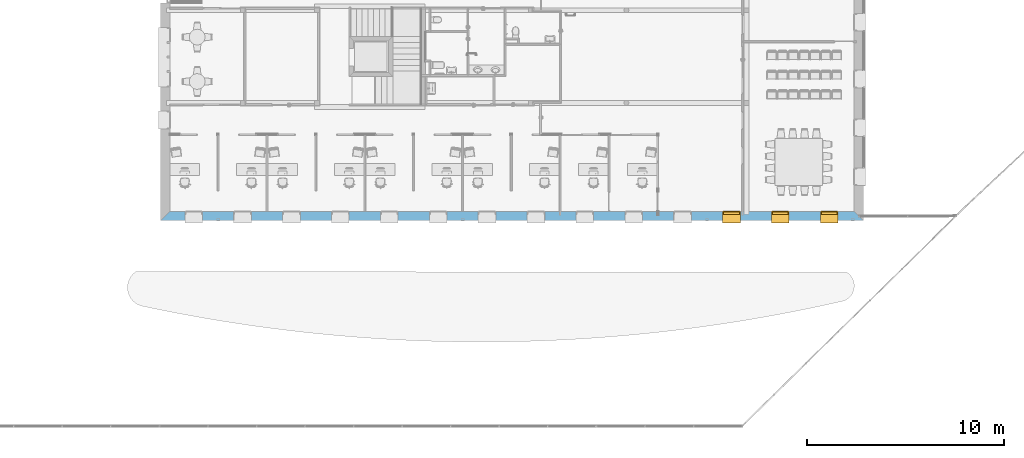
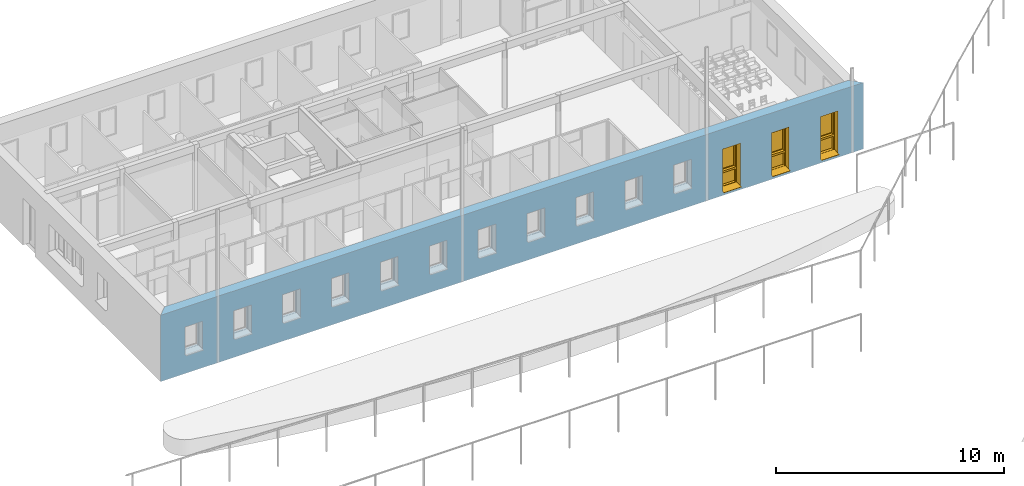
# One storey, part 17 of 91: 3 windows, 14 openings, plus 1 element that does not belong to this part.
"""IFC2X3 building model written with IfcOpenShell, lengths in metres."""

from ifc_helpers import new_model, entity, si_unit, converted_unit, derived_unit, money_unit, direction, frame, origin_with_axes, origin_2d_with_axis, place, context, subcontext, project, spatial, polyline, rectangle, outline, extrude, open_shell, faceted_brep, surface_model, source, transform, mapped, material, layer, layer_set, layer_usage, type_object, element, fill, save


model = new_model("IFC2X3")

# Units and contexts
model_context = context("Model", 3, precision=1e-05, world=origin_with_axes(), true_north=direction((0.0, 1.0)))
body_context = subcontext(model_context, "Body", "Model", "MODEL_VIEW")
ifc_project = project(units=[si_unit("LENGTHUNIT", "METRE"), si_unit("AREAUNIT", "SQUARE_METRE"), si_unit("VOLUMEUNIT", "CUBIC_METRE"), converted_unit("PLANEANGLEUNIT", "DEGREE", entity("IfcPlaneAngleMeasure", 0.0174532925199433), si_unit("PLANEANGLEUNIT", "RADIAN"), dimensions=[0, 0, 0, 0, 0, 0, 0]), money_unit("EUR"), converted_unit("TIMEUNIT", "Year", entity("IfcTimeMeasure", 31557600.0), si_unit("TIMEUNIT", "SECOND"), dimensions=[0, 0, 1, 0, 0, 0, 0]), si_unit("MASSUNIT", "GRAM", prefix="KILO"), si_unit("THERMODYNAMICTEMPERATUREUNIT", "DEGREE_CELSIUS"), si_unit("LUMINOUSINTENSITYUNIT", "LUMEN"), si_unit("ENERGYUNIT", "JOULE", prefix="MEGA"), derived_unit("THERMALCONDUCTANCEUNIT", [(si_unit("POWERUNIT", "WATT"), 1), (si_unit("LENGTHUNIT", "METRE"), -1), (si_unit("THERMODYNAMICTEMPERATUREUNIT", "KELVIN"), -1)]), derived_unit("SPECIFICHEATCAPACITYUNIT", [(si_unit("ENERGYUNIT", "JOULE"), 1), (si_unit("MASSUNIT", "GRAM", prefix="KILO"), -1), (si_unit("THERMODYNAMICTEMPERATUREUNIT", "KELVIN"), -1)]), derived_unit("MASSDENSITYUNIT", [(si_unit("MASSUNIT", "GRAM", prefix="KILO"), 1), (si_unit("VOLUMEUNIT", "CUBIC_METRE"), -1)])], contexts=[model_context])

# Site, building, storey
site_placement = place(None, origin_with_axes())
site = spatial("IfcSite", under=ifc_project, at=site_placement, Name="Site", CompositionType="ELEMENT")
building_placement = place(site_placement, origin_with_axes())
building = spatial("IfcBuilding", under=site, at=building_placement, Name="Bâtiment", CompositionType="ELEMENT")
storey_placement = place(building_placement, origin_with_axes())
storey = spatial("IfcBuildingStorey", under=building, at=storey_placement, Name="RDC", CompositionType="ELEMENT", Elevation=0.0)

# Wall, openings, windows
ifc_material_1 = material(Name="*MÉTAL- BARDAGE")
ifc_layer_1 = layer(ifc_material_1, 0.04, ventilated="UNKNOWN")
ifc_material_2 = material(Name="Divers - Vide faux plafond")
ifc_layer_2 = layer(ifc_material_2, 0.05, ventilated="UNKNOWN")
ifc_material_3 = material(Name="Finition int - Enduit plâtre")
ifc_layer_3 = layer(ifc_material_3, 0.01, ventilated="UNKNOWN")
ifc_material_4 = material(Name="*GENERIQUE - MAÇONNERIE")
ifc_layer_4 = layer(ifc_material_4, 0.2, ventilated="UNKNOWN")
ifc_layer_5 = layer(ifc_material_3, 0.01, ventilated="UNKNOWN")
ifc_material_5 = material(Name="Vide pour liteaux")
ifc_layer_6 = layer(ifc_material_5, 0.01, ventilated="UNKNOWN")
ifc_material_6 = material(Name="*GENERIQUE - ISOLATION PLANCHER")
ifc_layer_7 = layer(ifc_material_6, 0.14, ventilated="UNKNOWN")
ifc_material_7 = material(Name="*PLAQUE DE PLATRE - DOUBLAGE")
ifc_layer_8 = layer(ifc_material_7, 0.018, ventilated="UNKNOWN")
ifc_layer_set = layer_set([ifc_layer_1, ifc_layer_2, ifc_layer_3, ifc_layer_4, ifc_layer_5, ifc_layer_6, ifc_layer_7, ifc_layer_8], Name="*MACONNERIE ITI BARDAGE METAL")
ifc_layer_usage = layer_usage(ifc_layer_set, "AXIS2", "POSITIVE", -0.478)
wall_type = type_object("IfcWallType", Name="*MACONNERIE ITI BARDAGE METAL 478", PredefinedType="NOTDEFINED")
wall_placement = place(storey_placement, frame((25.09999999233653, -26.95756215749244, 0.0), z_axis=(0.0, 0.0, 1.0), x_axis=(1.0, 0.0, 0.0)))
wall = element("IfcWallStandardCase", 1, at=wall_placement, inside=storey, type_object=wall_type, material=ifc_layer_usage, Name="Mur maçonné + ITI + véture métallique", context=body_context, shape_type="SweptSolid", body=[
    extrude(outline(polyline([(-0.4780000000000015, -0.4780000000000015), (35.17800000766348, -0.4780000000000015), (34.70000000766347, 0.0), (0.0, 0.0), (-0.4780000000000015, -0.4780000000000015)])), origin_with_axes(), (0.0, 0.0, 1.0), 3.56),
])
opening_1_placement = place(wall_placement, frame((1.202999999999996, 0.0, 1.0), z_axis=(0.0, 0.0, 1.0), x_axis=(1.0, 0.0, 0.0)))
element("IfcOpeningElement", 2, at=opening_1_placement, cuts=wall, Name="ME.01", context=body_context, shape_type="SweptSolid", body=[
    extrude(rectangle(XDim=0.8999999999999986, YDim=1.5, at=origin_2d_with_axis()), frame((0.0, -0.1580000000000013, 0.75), z_axis=(0.0, -1.0, 0.0), x_axis=(-1.0, 0.0, 0.0)), (0.0, 0.0, 1.0), 0.798),
    extrude(rectangle(XDim=0.8999999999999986, YDim=1.5, at=origin_2d_with_axis()), frame((0.0, -0.1580000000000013, 0.75), z_axis=(0.0, 1.0, 0.0), x_axis=(-1.0, 0.0, 0.0)), (0.0, 0.0, 1.0), 0.6360000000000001),
])
opening_2_placement = place(wall_placement, frame((6.162999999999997, 0.0, 1.0), z_axis=(0.0, 0.0, 1.0), x_axis=(1.0, 0.0, 0.0)))
element("IfcOpeningElement", 3, at=opening_2_placement, cuts=wall, Name="ME.01", context=body_context, shape_type="SweptSolid", body=[
    extrude(rectangle(XDim=0.8999999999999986, YDim=1.5, at=origin_2d_with_axis()), frame((0.0, -0.1580000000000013, 0.75), z_axis=(0.0, -1.0, 0.0), x_axis=(-1.0, 0.0, 0.0)), (0.0, 0.0, 1.0), 0.798),
    extrude(rectangle(XDim=0.8999999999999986, YDim=1.5, at=origin_2d_with_axis()), frame((0.0, -0.1580000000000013, 0.75), z_axis=(0.0, 1.0, 0.0), x_axis=(-1.0, 0.0, 0.0)), (0.0, 0.0, 1.0), 0.6360000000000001),
])
opening_3_placement = place(wall_placement, frame((8.642999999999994, 0.0, 1.0), z_axis=(0.0, 0.0, 1.0), x_axis=(1.0, 0.0, 0.0)))
element("IfcOpeningElement", 4, at=opening_3_placement, cuts=wall, Name="ME.01", context=body_context, shape_type="SweptSolid", body=[
    extrude(rectangle(XDim=0.9000000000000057, YDim=1.5, at=origin_2d_with_axis()), frame((0.0, -0.1580000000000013, 0.75), z_axis=(0.0, -1.0, 0.0), x_axis=(-1.0, 0.0, 0.0)), (0.0, 0.0, 1.0), 0.798),
    extrude(rectangle(XDim=0.9000000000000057, YDim=1.5, at=origin_2d_with_axis()), frame((0.0, -0.1580000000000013, 0.75), z_axis=(0.0, 1.0, 0.0), x_axis=(-1.0, 0.0, 0.0)), (0.0, 0.0, 1.0), 0.6360000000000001),
])
opening_4_placement = place(wall_placement, frame((11.123, 0.0, 1.0), z_axis=(0.0, 0.0, 1.0), x_axis=(1.0, 0.0, 0.0)))
element("IfcOpeningElement", 5, at=opening_4_placement, cuts=wall, Name="ME.01", context=body_context, shape_type="SweptSolid", body=[
    extrude(rectangle(XDim=0.9000000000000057, YDim=1.5, at=origin_2d_with_axis()), frame((0.0, -0.1580000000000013, 0.75), z_axis=(0.0, -1.0, 0.0), x_axis=(-1.0, 0.0, 0.0)), (0.0, 0.0, 1.0), 0.798),
    extrude(rectangle(XDim=0.9000000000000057, YDim=1.5, at=origin_2d_with_axis()), frame((0.0, -0.1580000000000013, 0.75), z_axis=(0.0, 1.0, 0.0), x_axis=(-1.0, 0.0, 0.0)), (0.0, 0.0, 1.0), 0.6360000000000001),
])
opening_5_placement = place(wall_placement, frame((13.60299999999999, 0.0, 1.0), z_axis=(0.0, 0.0, 1.0), x_axis=(1.0, 0.0, 0.0)))
element("IfcOpeningElement", 6, at=opening_5_placement, cuts=wall, Name="ME.01", context=body_context, shape_type="SweptSolid", body=[
    extrude(rectangle(XDim=0.9000000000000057, YDim=1.5, at=origin_2d_with_axis()), frame((0.0, -0.1580000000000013, 0.75), z_axis=(0.0, -1.0, 0.0), x_axis=(-1.0, 0.0, 0.0)), (0.0, 0.0, 1.0), 0.798),
    extrude(rectangle(XDim=0.9000000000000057, YDim=1.5, at=origin_2d_with_axis()), frame((0.0, -0.1580000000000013, 0.75), z_axis=(0.0, 1.0, 0.0), x_axis=(-1.0, 0.0, 0.0)), (0.0, 0.0, 1.0), 0.6360000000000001),
])
opening_6_placement = place(wall_placement, frame((16.08299999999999, 0.0, 1.0), z_axis=(0.0, 0.0, 1.0), x_axis=(1.0, 0.0, 0.0)))
element("IfcOpeningElement", 7, at=opening_6_placement, cuts=wall, Name="ME.01", context=body_context, shape_type="SweptSolid", body=[
    extrude(rectangle(XDim=0.9000000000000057, YDim=1.5, at=origin_2d_with_axis()), frame((0.0, -0.1580000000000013, 0.75), z_axis=(0.0, -1.0, 0.0), x_axis=(-1.0, 0.0, 0.0)), (0.0, 0.0, 1.0), 0.798),
    extrude(rectangle(XDim=0.9000000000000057, YDim=1.5, at=origin_2d_with_axis()), frame((0.0, -0.1580000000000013, 0.75), z_axis=(0.0, 1.0, 0.0), x_axis=(-1.0, 0.0, 0.0)), (0.0, 0.0, 1.0), 0.6360000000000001),
])
opening_7_placement = place(wall_placement, frame((18.563, 0.0, 1.0), z_axis=(0.0, 0.0, 1.0), x_axis=(1.0, 0.0, 0.0)))
element("IfcOpeningElement", 8, at=opening_7_placement, cuts=wall, Name="ME.01", context=body_context, shape_type="SweptSolid", body=[
    extrude(rectangle(XDim=0.9000000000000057, YDim=1.5, at=origin_2d_with_axis()), frame((0.0, -0.1580000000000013, 0.75), z_axis=(0.0, -1.0, 0.0), x_axis=(-1.0, 0.0, 0.0)), (0.0, 0.0, 1.0), 0.798),
    extrude(rectangle(XDim=0.9000000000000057, YDim=1.5, at=origin_2d_with_axis()), frame((0.0, -0.1580000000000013, 0.75), z_axis=(0.0, 1.0, 0.0), x_axis=(-1.0, 0.0, 0.0)), (0.0, 0.0, 1.0), 0.6360000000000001),
])
opening_8_placement = place(wall_placement, frame((21.043, 0.0, 1.0), z_axis=(0.0, 0.0, 1.0), x_axis=(1.0, 0.0, 0.0)))
element("IfcOpeningElement", 9, at=opening_8_placement, cuts=wall, Name="ME.01", context=body_context, shape_type="SweptSolid", body=[
    extrude(rectangle(XDim=0.9000000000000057, YDim=1.5, at=origin_2d_with_axis()), frame((0.0, -0.1580000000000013, 0.75), z_axis=(0.0, -1.0, 0.0), x_axis=(-1.0, 0.0, 0.0)), (0.0, 0.0, 1.0), 0.798),
    extrude(rectangle(XDim=0.9000000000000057, YDim=1.5, at=origin_2d_with_axis()), frame((0.0, -0.1580000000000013, 0.75), z_axis=(0.0, 1.0, 0.0), x_axis=(-1.0, 0.0, 0.0)), (0.0, 0.0, 1.0), 0.6360000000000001),
])
opening_9_placement = place(wall_placement, frame((3.682999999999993, 0.0, 1.0), z_axis=(0.0, 0.0, 1.0), x_axis=(1.0, 0.0, 0.0)))
element("IfcOpeningElement", 10, at=opening_9_placement, cuts=wall, Name="ME.01", context=body_context, shape_type="SweptSolid", body=[
    extrude(rectangle(XDim=0.8999999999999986, YDim=1.5, at=origin_2d_with_axis()), frame((0.0, -0.1580000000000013, 0.75), z_axis=(0.0, -1.0, 0.0), x_axis=(-1.0, 0.0, 0.0)), (0.0, 0.0, 1.0), 0.798),
    extrude(rectangle(XDim=0.8999999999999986, YDim=1.5, at=origin_2d_with_axis()), frame((0.0, -0.1580000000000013, 0.75), z_axis=(0.0, 1.0, 0.0), x_axis=(-1.0, 0.0, 0.0)), (0.0, 0.0, 1.0), 0.6360000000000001),
])
opening_10_placement = place(wall_placement, frame((23.523, 0.0, 1.0), z_axis=(0.0, 0.0, 1.0), x_axis=(1.0, 0.0, 0.0)))
element("IfcOpeningElement", 11, at=opening_10_placement, cuts=wall, Name="ME.01", context=body_context, shape_type="SweptSolid", body=[
    extrude(rectangle(XDim=0.9000000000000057, YDim=1.5, at=origin_2d_with_axis()), frame((0.0, -0.1580000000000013, 0.75), z_axis=(0.0, -1.0, 0.0), x_axis=(-1.0, 0.0, 0.0)), (0.0, 0.0, 1.0), 0.798),
    extrude(rectangle(XDim=0.9000000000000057, YDim=1.5, at=origin_2d_with_axis()), frame((0.0, -0.1580000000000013, 0.75), z_axis=(0.0, 1.0, 0.0), x_axis=(-1.0, 0.0, 0.0)), (0.0, 0.0, 1.0), 0.6360000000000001),
])
opening_11_placement = place(wall_placement, frame((26.00300000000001, 0.0, 1.0), z_axis=(0.0, 0.0, 1.0), x_axis=(1.0, 0.0, 0.0)))
element("IfcOpeningElement", 12, at=opening_11_placement, cuts=wall, Name="ME.01", context=body_context, shape_type="SweptSolid", body=[
    extrude(rectangle(XDim=0.9000000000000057, YDim=1.5, at=origin_2d_with_axis()), frame((0.0, -0.1580000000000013, 0.75), z_axis=(0.0, -1.0, 0.0), x_axis=(-1.0, 0.0, 0.0)), (0.0, 0.0, 1.0), 0.798),
    extrude(rectangle(XDim=0.9000000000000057, YDim=1.5, at=origin_2d_with_axis()), frame((0.0, -0.1580000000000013, 0.75), z_axis=(0.0, 1.0, 0.0), x_axis=(-1.0, 0.0, 0.0)), (0.0, 0.0, 1.0), 0.6360000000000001),
])
opening_12_placement = place(wall_placement, frame((28.48300000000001, 0.0, 0.2), z_axis=(0.0, 0.0, 1.0), x_axis=(1.0, 0.0, 0.0)))
opening_12 = element("IfcOpeningElement", 13, at=opening_12_placement, cuts=wall, Name="ME.02", context=body_context, shape_type="SweptSolid", body=[
    extrude(rectangle(XDim=0.9000000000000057, YDim=2.3, at=origin_2d_with_axis()), frame((0.0, -0.1580000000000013, 1.15), z_axis=(0.0, -1.0, 0.0), x_axis=(-1.0, 0.0, 0.0)), (0.0, 0.0, 1.0), 0.798),
    extrude(rectangle(XDim=0.9000000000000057, YDim=2.3, at=origin_2d_with_axis()), frame((0.0, -0.1580000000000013, 1.15), z_axis=(0.0, 1.0, 0.0), x_axis=(-1.0, 0.0, 0.0)), (0.0, 0.0, 1.0), 0.6360000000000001),
])
opening_13_placement = place(wall_placement, frame((30.96300000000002, 0.0, 0.2), z_axis=(0.0, 0.0, 1.0), x_axis=(1.0, 0.0, 0.0)))
opening_13 = element("IfcOpeningElement", 14, at=opening_13_placement, cuts=wall, Name="ME.02", context=body_context, shape_type="SweptSolid", body=[
    extrude(rectangle(XDim=0.9000000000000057, YDim=2.3, at=origin_2d_with_axis()), frame((0.0, -0.1580000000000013, 1.15), z_axis=(0.0, -1.0, 0.0), x_axis=(-1.0, 0.0, 0.0)), (0.0, 0.0, 1.0), 0.798),
    extrude(rectangle(XDim=0.9000000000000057, YDim=2.3, at=origin_2d_with_axis()), frame((0.0, -0.1580000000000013, 1.15), z_axis=(0.0, 1.0, 0.0), x_axis=(-1.0, 0.0, 0.0)), (0.0, 0.0, 1.0), 0.6360000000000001),
])
opening_14_placement = place(wall_placement, frame((33.44300000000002, 0.0, 0.2), z_axis=(0.0, 0.0, 1.0), x_axis=(1.0, 0.0, 0.0)))
opening_14 = element("IfcOpeningElement", 15, at=opening_14_placement, cuts=wall, Name="ME.02", context=body_context, shape_type="SweptSolid", body=[
    extrude(rectangle(XDim=0.9000000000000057, YDim=2.3, at=origin_2d_with_axis()), frame((0.0, -0.1580000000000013, 1.15), z_axis=(0.0, -1.0, 0.0), x_axis=(-1.0, 0.0, 0.0)), (0.0, 0.0, 1.0), 0.798),
    extrude(rectangle(XDim=0.9000000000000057, YDim=2.3, at=origin_2d_with_axis()), frame((0.0, -0.1580000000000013, 1.15), z_axis=(0.0, 1.0, 0.0), x_axis=(-1.0, 0.0, 0.0)), (0.0, 0.0, 1.0), 0.6360000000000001),
])
window_style = type_object("IfcWindowStyle", Name="Fenêtre 27", ConstructionType="NOTDEFINED", OperationType="DOUBLE_PANEL_HORIZONTAL", ParameterTakesPrecedence=False, Sizeable=False)
shared_shape = source(origin_with_axes(), body_context, "Body", "SurfaceModel", [
    surface_model("IfcShellBasedSurfaceModel", [(0.45, -0.161, 0.05), (-0.45, -0.161, 0.05000000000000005), (-0.45, -0.161, 0.04000000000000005), (0.45, -0.161, 0.03999999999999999), (-0.45, -0.5850000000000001, 0.01343749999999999), (0.45, -0.5850000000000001, 0.01343749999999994), (-0.45, -0.5850000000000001, -0.006562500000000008), (0.45, -0.5850000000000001, -0.006562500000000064), (-0.45, -0.5750000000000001, 0.003437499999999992), (0.45, -0.5750000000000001, 0.003437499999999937)], [open_shell([[[0, 1, 2, 3]], [[3, 2, 4, 5]], [[5, 4, 6, 7]], [[7, 6, 8, 9]]])]),
    faceted_brep([(0.447, -0.48, 0.02001547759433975), (0.447, -0.4799999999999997, 2.297), (0.447, -0.1599999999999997, 2.297), (0.447, -0.16, 0.05000000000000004), (0.447, -0.161, 0.05000000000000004), (0.447, -0.161, 0.04000000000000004), (0.45, -0.48, 0.02001547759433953), (0.45, -0.4799999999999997, 2.3), (0.45, -0.1599999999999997, 2.3), (0.45, -0.16, 0.05000000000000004), (0.45, -0.161, 0.05000000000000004), (0.45, -0.161, 0.04000000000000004)], [[[0, 1, 2, 3, 4, 5]], [[6, 7, 1, 0]], [[8, 2, 1, 7]], [[3, 2, 8, 9]], [[3, 9, 10, 4]], [[4, 10, 11, 5]], [[5, 11, 6, 0]], [[11, 10, 9, 8, 7, 6]]]),
    faceted_brep([(-0.45, -0.48, 0.02001547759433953), (-0.45, -0.4799999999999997, 2.3), (-0.45, -0.1599999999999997, 2.3), (-0.45, -0.16, 0.05000000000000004), (-0.45, -0.161, 0.05000000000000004), (-0.45, -0.161, 0.04000000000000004), (-0.447, -0.48, 0.02001547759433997), (-0.447, -0.4799999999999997, 2.297), (-0.447, -0.1599999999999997, 2.297), (-0.447, -0.16, 0.05000000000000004), (-0.447, -0.161, 0.05000000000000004), (-0.447, -0.161, 0.04000000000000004)], [[[0, 1, 2, 3, 4, 5]], [[6, 7, 1, 0]], [[8, 2, 1, 7]], [[3, 2, 8, 9]], [[3, 9, 10, 4]], [[4, 10, 11, 5]], [[5, 11, 6, 0]], [[11, 10, 9, 8, 7, 6]]]),
    faceted_brep([(0.45, -0.1599999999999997, 2.3), (0.45, -0.4799999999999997, 2.3), (0.447, -0.4799999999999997, 2.297), (0.447, -0.1599999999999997, 2.297), (-0.45, -0.1599999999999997, 2.3), (-0.45, -0.4799999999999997, 2.3), (-0.447, -0.4799999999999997, 2.297), (-0.447, -0.1599999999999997, 2.297)], [[[0, 1, 2, 3]], [[4, 5, 1, 0]], [[1, 5, 6, 2]], [[3, 2, 6, 7]], [[0, 3, 7, 4]], [[7, 6, 5, 4]]]),
    faceted_brep([(0.425, 0.0, 2.25), (0.425, -0.02500000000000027, 2.25), (0.4, -0.02500000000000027, 2.25), (0.4, -0.1600000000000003, 2.25), (0.45, -0.1600000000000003, 2.25), (0.45, 0.0, 2.25), (0.425, 0.0, 0.8250000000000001), (0.425, -0.02500000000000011, 0.8250000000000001), (0.4, -0.02500000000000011, 0.8500000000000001), (0.4, -0.02500000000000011, 0.8250000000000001), (0.4, -0.1600000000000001, 0.8500000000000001), (0.4, -0.1600000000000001, 0.75), (0.4, -0.16, 0.05000000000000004), (0.45, -0.16, 0.05000000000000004), (0.45, 0.0, 0.05000000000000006), (0.4, 0.0, 0.05000000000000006), (0.4, 0.0, 0.75), (0.4, 0.0, 0.8250000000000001)], [[[0, 1, 2, 3, 4, 5]], [[1, 0, 6, 7]], [[8, 2, 1, 7, 9]], [[2, 8, 10, 3]], [[10, 11, 12, 13, 4, 3]], [[5, 4, 13, 14]], [[6, 0, 5, 14, 15, 16, 17]], [[6, 17, 9, 7]], [[9, 17, 16, 11, 10, 8]], [[15, 12, 11, 16]], [[14, 13, 12, 15]]]),
    faceted_brep([(-0.4, -0.02500000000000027, 2.25), (-0.425, -0.02500000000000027, 2.25), (-0.425, 0.0, 2.25), (-0.45, 0.0, 2.25), (-0.45, -0.1600000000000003, 2.25), (-0.4, -0.1600000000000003, 2.25), (-0.4, -0.02500000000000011, 0.8500000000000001), (-0.4, -0.02500000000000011, 0.8250000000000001), (-0.425, -0.02500000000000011, 0.8250000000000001), (-0.425, 0.0, 0.8250000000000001), (-0.4, 0.0, 0.8250000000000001), (-0.4, 0.0, 0.75), (-0.4, 0.0, 0.05000000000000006), (-0.45, 0.0, 0.05000000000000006), (-0.45, -0.16, 0.05000000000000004), (-0.4, -0.16, 0.05000000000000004), (-0.4, -0.1600000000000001, 0.75), (-0.4, -0.1600000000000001, 0.8500000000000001)], [[[0, 1, 2, 3, 4, 5]], [[1, 0, 6, 7, 8]], [[9, 2, 1, 8]], [[9, 10, 11, 12, 13, 3, 2]], [[13, 14, 4, 3]], [[14, 15, 16, 17, 5, 4]], [[6, 0, 5, 17]], [[7, 6, 17, 16, 11, 10]], [[10, 9, 8, 7]], [[11, 16, 15, 12]], [[12, 15, 14, 13]]]),
    faceted_brep([(0.4, -0.02500000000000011, 0.8500000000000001), (-0.4, -0.02500000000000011, 0.8500000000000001), (-0.4, -0.1600000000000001, 0.8500000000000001), (0.4, -0.1600000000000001, 0.8500000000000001), (-0.4, -0.02500000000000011, 0.8250000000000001), (0.4, -0.02500000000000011, 0.8250000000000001), (-0.4, 0.0, 0.8250000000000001), (-0.4, 0.0, 0.75), (-0.4, -0.1600000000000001, 0.75), (0.4, -0.1600000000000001, 0.75), (0.4, 0.0, 0.75), (0.4, 0.0, 0.8250000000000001)], [[[0, 1, 2, 3]], [[4, 1, 0, 5]], [[4, 6, 7, 8, 2, 1]], [[8, 9, 3, 2]], [[5, 0, 3, 9, 10, 11]], [[11, 6, 4, 5]], [[6, 11, 10, 7]], [[10, 9, 8, 7]]]),
    faceted_brep([(0.425, 0.0, 2.25), (0.425, 0.0, 2.275), (-0.425, 0.0, 2.275), (-0.425, 0.0, 2.25), (-0.45, 0.0, 2.25), (-0.45, 0.0, 2.3), (0.45, 0.0, 2.3), (0.45, 0.0, 2.25), (0.425, -0.02500000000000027, 2.25), (0.425, -0.02500000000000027, 2.275), (-0.425, -0.02500000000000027, 2.275), (-0.425, -0.02500000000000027, 2.25), (-0.4, -0.02500000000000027, 2.25), (-0.4, -0.1600000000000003, 2.25), (-0.45, -0.1600000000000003, 2.25), (-0.45, -0.1600000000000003, 2.3), (0.45, -0.1600000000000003, 2.3), (0.45, -0.1600000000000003, 2.25), (0.4, -0.1600000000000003, 2.25), (0.4, -0.02500000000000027, 2.25)], [[[0, 1, 2, 3, 4, 5, 6, 7]], [[1, 0, 8, 9]], [[2, 1, 9, 10]], [[3, 2, 10, 11]], [[11, 12, 13, 14, 4, 3]], [[4, 14, 15, 5]], [[5, 15, 16, 6]], [[6, 16, 17, 7]], [[8, 0, 7, 17, 18, 19]], [[12, 11, 10, 9, 8, 19]], [[12, 19, 18, 13]], [[14, 13, 18, 17, 16, 15]]]),
    faceted_brep([(0.4, -0.16, 0.05), (0.45, -0.16, 0.05), (0.45, 0.0, 0.05000000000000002), (0.4, 0.0, 0.05000000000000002), (-0.4, -0.16, 0.05), (-0.45, -0.16, 0.05), (-0.45, -0.16, 0.0), (0.45, -0.16, 0.0), (0.45, 0.0, 0.0), (-0.45, 0.0, 0.0), (-0.45, 0.0, 0.05000000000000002), (-0.4, 0.0, 0.05000000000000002)], [[[0, 1, 2, 3]], [[0, 4, 5, 6, 7, 1]], [[1, 7, 8, 2]], [[3, 2, 8, 9, 10, 11]], [[4, 0, 3, 11]], [[5, 4, 11, 10]], [[6, 5, 10, 9]], [[7, 6, 9, 8]]]),
    faceted_brep([(0.3750000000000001, -0.02500000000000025, 2.225), (0.425, -0.02500000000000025, 2.225), (0.425, 0.02499999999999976, 2.225), (0.3750000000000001, 0.02499999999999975, 2.225), (0.3750000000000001, -0.02500000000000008, 0.8750000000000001), (0.425, -0.02500000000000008, 0.8750000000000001), (0.425, 0.02499999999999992, 0.8750000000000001), (0.3750000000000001, 0.02499999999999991, 0.8750000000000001)], [[[0, 1, 2, 3]], [[0, 4, 5, 1]], [[1, 5, 6, 2]], [[3, 2, 6, 7]], [[4, 0, 3, 7]], [[5, 4, 7, 6]]]),
    faceted_brep([(-0.3750000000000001, -0.02500000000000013, 0.8750000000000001), (-0.425, -0.02500000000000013, 0.8750000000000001), (-0.425, 0.02499999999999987, 0.8750000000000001), (-0.3750000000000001, 0.02499999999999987, 0.8750000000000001), (-0.3750000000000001, -0.0250000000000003, 2.225), (-0.425, -0.0250000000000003, 2.225), (-0.425, 0.0249999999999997, 2.225), (-0.3750000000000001, 0.02499999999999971, 2.225)], [[[0, 1, 2, 3]], [[0, 4, 5, 1]], [[1, 5, 6, 2]], [[3, 2, 6, 7]], [[4, 0, 3, 7]], [[5, 4, 7, 6]]]),
    faceted_brep([(-0.425, -0.02500000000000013, 0.8250000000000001), (-0.425, -0.02500000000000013, 0.8750000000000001), (-0.425, 0.02499999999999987, 0.8750000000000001), (-0.425, 0.02499999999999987, 0.8250000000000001), (0.425, -0.02500000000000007, 0.8250000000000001), (0.425, -0.02500000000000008, 0.8750000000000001), (0.3750000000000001, -0.02500000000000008, 0.8750000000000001), (-0.3750000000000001, -0.02500000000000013, 0.8750000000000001), (-0.3750000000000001, 0.02499999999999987, 0.8750000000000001), (0.3750000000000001, 0.02499999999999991, 0.8750000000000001), (0.425, 0.02499999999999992, 0.8750000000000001), (0.425, 0.02499999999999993, 0.8250000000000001)], [[[0, 1, 2, 3]], [[0, 4, 5, 6, 7, 1]], [[1, 7, 8, 2]], [[3, 2, 8, 9, 10, 11]], [[4, 0, 3, 11]], [[5, 4, 11, 10]], [[6, 5, 10, 9]], [[7, 6, 9, 8]]]),
    faceted_brep([(0.425, -0.02500000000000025, 2.275), (0.425, -0.02500000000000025, 2.225), (0.425, 0.02499999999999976, 2.225), (0.425, 0.02499999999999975, 2.275), (-0.425, -0.02500000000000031, 2.275), (-0.425, -0.0250000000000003, 2.225), (-0.3750000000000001, -0.0250000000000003, 2.225), (0.3750000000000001, -0.02500000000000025, 2.225), (0.3750000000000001, 0.02499999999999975, 2.225), (-0.3750000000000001, 0.02499999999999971, 2.225), (-0.425, 0.0249999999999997, 2.225), (-0.425, 0.02499999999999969, 2.275)], [[[0, 1, 2, 3]], [[0, 4, 5, 6, 7, 1]], [[1, 7, 8, 2]], [[3, 2, 8, 9, 10, 11]], [[4, 0, 3, 11]], [[5, 4, 11, 10]], [[6, 5, 10, 9]], [[7, 6, 9, 8]]]),
    surface_model("IfcShellBasedSurfaceModel", [(0.3750000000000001, -0.01000000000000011, 0.8750000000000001), (0.3750000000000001, -0.01000000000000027, 2.225), (-0.3750000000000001, -0.01000000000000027, 2.225), (-0.3750000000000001, -0.01000000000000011, 0.8750000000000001)], [open_shell([[[0, 1, 2, 3]]])]),
    surface_model("IfcShellBasedSurfaceModel", [(0.3750000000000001, 0.009999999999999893, 0.8750000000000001), (-0.3750000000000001, 0.009999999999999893, 0.8750000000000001), (-0.3750000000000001, 0.00999999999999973, 2.225), (0.3750000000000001, 0.00999999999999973, 2.225)], [open_shell([[[0, 1, 2, 3]]])]),
    surface_model("IfcShellBasedSurfaceModel", [(0.4, -0.035, 0.05000000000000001), (0.4, -0.03500000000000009, 0.75), (-0.4, -0.03500000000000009, 0.75), (-0.4, -0.035, 0.05000000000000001)], [open_shell([[[0, 1, 2, 3]]])]),
    surface_model("IfcShellBasedSurfaceModel", [(0.4, -0.015, 0.05000000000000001), (-0.4, -0.015, 0.05000000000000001), (-0.4, -0.01500000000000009, 0.75), (0.4, -0.01500000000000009, 0.75)], [open_shell([[[0, 1, 2, 3]]])]),
])
window_1_placement = place(opening_12_placement, frame((-0.4500000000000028, 0.0, 0.0), z_axis=(0.0, 0.0, 1.0), x_axis=(1.0, 0.0, 0.0)))
window_1 = element("IfcWindow", 16, at=window_1_placement, inside=storey, type_object=window_style, Name="ME.02", OverallHeight=2.3, OverallWidth=0.9, context=body_context, shape_type="MappedRepresentation", body=[
    mapped(shared_shape, transform((0.4500000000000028, 0.001999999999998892, 0.0))),
])
fill(opening_12, window_1)
window_2_placement = place(opening_13_placement, frame((-0.4500000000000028, 0.0, 0.0), z_axis=(0.0, 0.0, 1.0), x_axis=(1.0, 0.0, 0.0)))
window_2 = element("IfcWindow", 17, at=window_2_placement, inside=storey, type_object=window_style, Name="ME.02", OverallHeight=2.3, OverallWidth=0.9, context=body_context, shape_type="MappedRepresentation", body=[
    mapped(shared_shape, transform((0.4500000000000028, 0.001999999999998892, 0.0))),
])
fill(opening_13, window_2)
window_3_placement = place(opening_14_placement, frame((-0.4500000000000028, 0.0, 0.0), z_axis=(0.0, 0.0, 1.0), x_axis=(1.0, 0.0, 0.0)))
window_3 = element("IfcWindow", 18, at=window_3_placement, inside=storey, type_object=window_style, Name="ME.02", OverallHeight=2.3, OverallWidth=0.9, context=body_context, shape_type="MappedRepresentation", body=[
    mapped(shared_shape, transform((0.4500000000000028, 0.001999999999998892, 0.0))),
])
fill(opening_14, window_3)

save(model, "model.ifc")
